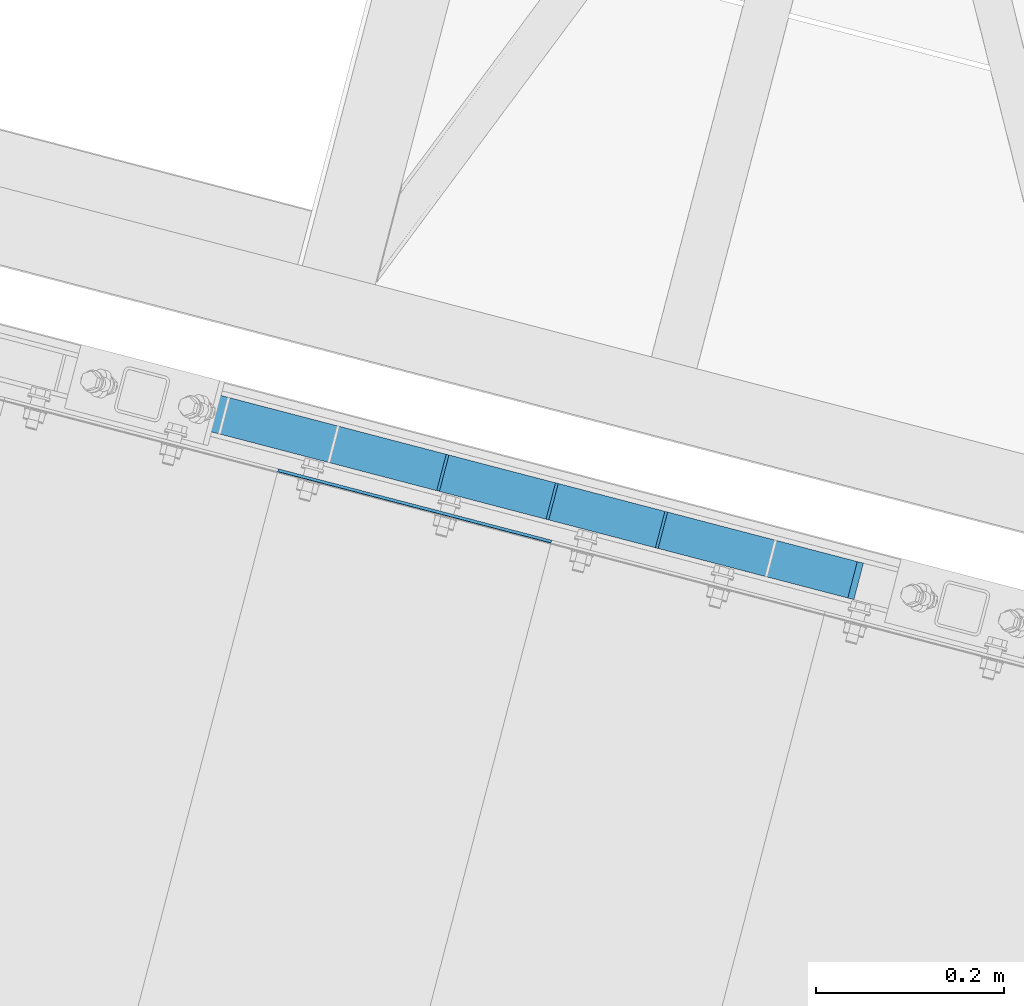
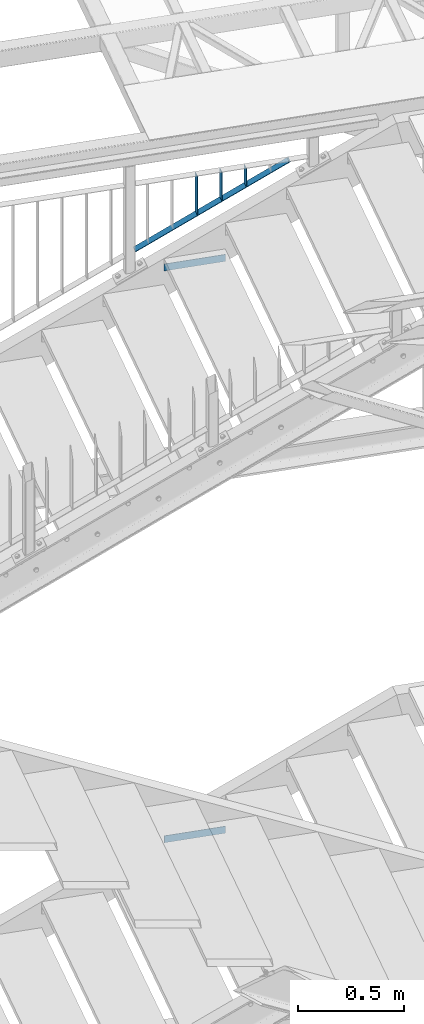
# One storey, part 82 of 169: 6 discrete accessories, 3 elements without a shape of their own.
"""IFC2X3 building model written with IfcOpenShell, lengths in millimetres."""

from ifc_helpers import new_model, si_unit, frame, origin_with_axes, origin_2d_with_axis, place, context, subcontext, project, spatial, polyline, rectangle, outline, extrude, boolean, clip, halfspace, material, type_object, element, aggregate, save


model = new_model("IFC2X3")

# Units and contexts
model_context = context("Model", 3, precision=1e-05, world=origin_with_axes())
body_context = subcontext(model_context, "Body", "Model", "MODEL_VIEW")
ifc_project = project(units=[si_unit("LENGTHUNIT", "METRE", prefix="MILLI"), si_unit("AREAUNIT", "SQUARE_METRE"), si_unit("VOLUMEUNIT", "CUBIC_METRE"), si_unit("MASSUNIT", "GRAM", prefix="KILO"), si_unit("TIMEUNIT", "SECOND"), si_unit("PLANEANGLEUNIT", "RADIAN"), si_unit("SOLIDANGLEUNIT", "STERADIAN"), si_unit("THERMODYNAMICTEMPERATUREUNIT", "DEGREE_CELSIUS"), si_unit("LUMINOUSINTENSITYUNIT", "LUMEN")], contexts=[model_context])

# Site, building, storey
site_placement = place(None, origin_with_axes())
site = spatial("IfcSite", under=ifc_project, at=site_placement, Name="Undefined", CompositionType="ELEMENT")
building_placement = place(site_placement, origin_with_axes())
building = spatial("IfcBuilding", under=site, at=building_placement, Name="Undefined", CompositionType="ELEMENT")
storey_placement = place(building_placement, origin_with_axes())
storey = spatial("IfcBuildingStorey", under=building, at=storey_placement, Name="Undefined", CompositionType="ELEMENT", Elevation=0.0)

# Assembly, discrete accessories
assembly_1_placement = place(storey_placement, origin_with_axes())
assembly_1 = element("IfcElementAssembly", 1, at=assembly_1_placement, inside=storey, Name="Steel Assembly", AssemblyPlace="NOTDEFINED", PredefinedType="RIGID_FRAME")
ifc_material_1 = material(Name="STEEL/S235")
discrete_accessory_type_1 = type_object("IfcDiscreteAccessoryType", Name="PORĘCZ")
discrete_accessory_1_placement = place(assembly_1_placement, frame((-25359.2721023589, 8229.94731419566, 13986.9945116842), z_axis=(-0.967563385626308, 0.252628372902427, -1.72000000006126e-07), x_axis=(-3.45692487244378e-05, -0.000132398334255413, -0.999999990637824)))
discrete_accessory_1 = element("IfcDiscreteAccessory", 2, at=discrete_accessory_1_placement, type_object=discrete_accessory_type_1, material=ifc_material_1, Name="PORĘCZ", ObjectType="BL40*3", context=body_context, shape_type="Clipping", body=[
    clip(clip(extrude(outline(polyline([(353.32294900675, 19.9999999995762), (353.322948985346, -20.0000000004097), (128.500000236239, -20.0000000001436), (128.500000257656, 19.9999999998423), (353.32294900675, 19.9999999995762)])), frame((1.81898940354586e-12, -1.77635442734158e-15, -1.50000000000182), z_axis=(0.0, 0.0, 1.0), x_axis=(1.0, 0.0, 0.0)), (0.0, 0.0, 1.0), 3.0), halfspace(frame((128.500000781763, 1000.00000000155, -1.38315954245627e-08), z_axis=(1.0, 0.0, 0.0), x_axis=(-2.54700353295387e-10, 0.0, -1.0)), True)), halfspace(frame((353.658359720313, 1000.00000000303, 0.670820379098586), z_axis=(-0.89442719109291, -3.87067713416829e-10, 0.44721359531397), x_axis=(0.44721359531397, 3.3177479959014e-10, 0.89442719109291)), True)),
])
discrete_accessory_2_placement = place(assembly_1_placement, frame((-25243.1658788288, 8199.6266135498, 13946.9945119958), z_axis=(-0.967563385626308, 0.252628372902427, -1.72000000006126e-07), x_axis=(-3.45692487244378e-05, -0.000132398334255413, -0.999999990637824)))
discrete_accessory_2 = element("IfcDiscreteAccessory", 3, at=discrete_accessory_2_placement, type_object=discrete_accessory_type_1, material=ifc_material_1, Name="PORĘCZ", ObjectType="BL40*3", context=body_context, shape_type="Clipping", body=[
    clip(clip(extrude(outline(polyline([(253.322948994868, 20.0000000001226), (253.32294893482, -19.9999999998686), (88.500000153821, -19.9999999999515), (88.5000002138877, 20.0000000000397), (253.322948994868, 20.0000000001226)])), frame((1.81898940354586e-12, -1.77635442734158e-15, -1.50000000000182), z_axis=(0.0, 0.0, 1.0), x_axis=(1.0, 0.0, 0.0)), (0.0, 0.0, 1.0), 3.0), halfspace(frame((88.5000016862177, 1000.0000000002, -1.38606992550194e-08), z_axis=(1.0, 0.0, 0.0), x_axis=(-2.54700353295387e-10, 0.0, -1.0)), True)), halfspace(frame((253.658360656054, 1000.00000000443, 0.670820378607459), z_axis=(-0.89442719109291, -3.87067713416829e-10, 0.44721359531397), x_axis=(0.44721359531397, 3.3177479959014e-10, 0.89442719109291)), True)),
])
discrete_accessory_3_placement = place(assembly_1_placement, frame((-25127.0596552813, 8169.3059129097, 13906.9945123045), z_axis=(-0.967563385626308, 0.252628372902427, -1.72000000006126e-07), x_axis=(-3.45692487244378e-05, -0.000132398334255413, -0.999999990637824)))
discrete_accessory_3 = element("IfcDiscreteAccessory", 4, at=discrete_accessory_3_placement, type_object=discrete_accessory_type_1, material=ifc_material_1, Name="PORĘCZ", ObjectType="BL40*3", context=body_context, shape_type="Clipping", body=[
    clip(clip(extrude(outline(polyline([(153.322949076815, 20.0000000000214), (153.322948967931, -19.9999999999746), (48.5000000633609, -19.9999999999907), (48.5000001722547, 20.0000000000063), (153.322949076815, 20.0000000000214)])), frame((1.81898940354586e-12, -1.77635442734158e-15, -1.50000000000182), z_axis=(0.0, 0.0, 1.0), x_axis=(1.0, 0.0, 0.0)), (0.0, 0.0, 1.0), 3.0), halfspace(frame((48.5000028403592, 999.999999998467, -1.5352270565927e-08), z_axis=(1.0, 0.0, 0.0), x_axis=(-2.54700353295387e-10, 0.0, -1.0)), True)), halfspace(frame((153.658361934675, 1000.00000000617, 0.670820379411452), z_axis=(-0.89442719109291, -3.87067713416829e-10, 0.44721359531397), x_axis=(0.44721359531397, 3.3177479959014e-10, 0.89442719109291)), True)),
])
discrete_accessory_4_placement = place(assembly_1_placement, frame((-25678.5859960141, 8313.24582991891, 13466.9945164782), z_axis=(-0.252628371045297, -0.967563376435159, 0.000136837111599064), x_axis=(0.8654304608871, -0.225898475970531, 0.447213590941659)))
discrete_accessory_4 = element("IfcDiscreteAccessory", 5, at=discrete_accessory_4_placement, type_object=discrete_accessory_type_1, material=ifc_material_1, Name="PORĘCZ", ObjectType="BL40*3", context=body_context, shape_type="CSG", body=[
    boolean("DIFFERENCE", boolean("DIFFERENCE", boolean("DIFFERENCE", boolean("DIFFERENCE", extrude(rectangle(XDim=3.0, YDim=40.0, at=origin_2d_with_axis()), frame((896.30909638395, 0.0, -6.86979927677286e-13), z_axis=(-1.0, -3.46944695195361e-18, -1.38777878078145e-17), x_axis=(1.73472347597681e-18, -1.0, 0.0)), (0.0, 0.0, 1.0), 889.25), extrude(rectangle(XDim=51.0, YDim=51.0, at=origin_2d_with_axis()), frame((62.609903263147, 125.219806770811, -1.03546508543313e-07), z_axis=(-0.44721359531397, -0.89442719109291, 6.42512531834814e-12), x_axis=(0.894427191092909, -0.447213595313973, -3.67723235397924e-10)), (0.0, 0.0, 1.0), 280.0)), extrude(rectangle(XDim=51.0, YDim=51.0, at=origin_2d_with_axis()), frame((1074.43066427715, 136.400146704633, -4.89881405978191e-07), z_axis=(-0.44721359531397, -0.89442719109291, 6.42512531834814e-12), x_axis=(0.894427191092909, -0.447213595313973, -3.67723235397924e-10)), (0.0, 0.0, 1.0), 280.0)), halfspace(frame((878.103894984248, -1.34164079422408, 1000.00000000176), z_axis=(-0.44721359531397, -0.89442719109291, 6.42512531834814e-12), x_axis=(0.894427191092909, -0.447213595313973, -3.67723235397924e-10)), True)), halfspace(frame((22.36067942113, -11.1803398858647, 1000.00000000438), z_axis=(0.894427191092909, -0.447213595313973, -3.67723235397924e-10), x_axis=(0.447213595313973, 0.894427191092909, -6.42523900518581e-12)), True)),
])
aggregate(assembly_1, [discrete_accessory_1, discrete_accessory_2, discrete_accessory_3, discrete_accessory_4])

# Assembly, discrete accessory
assembly_2_placement = place(storey_placement, origin_with_axes())
assembly_2 = element("IfcElementAssembly", 6, at=assembly_2_placement, inside=storey, Name="Steel Assembly", AssemblyPlace="NOTDEFINED", PredefinedType="RIGID_FRAME")
ifc_material_2 = material(Name="STEEL/S235JR")
discrete_accessory_type_2 = type_object("IfcDiscreteAccessoryType", Name="ANGLE")
discrete_accessory_5_placement = place(assembly_2_placement, frame((-25534.3074294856, 8232.67858531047, 13380.0957858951), z_axis=(-0.252562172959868, -0.967580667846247, 0.0), x_axis=(0.967580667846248, -0.252562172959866, 0.0)))
discrete_accessory_5 = element("IfcDiscreteAccessory", 7, at=discrete_accessory_5_placement, type_object=discrete_accessory_type_2, material=ifc_material_2, Name="ANGLE", ObjectType="3*40", context=body_context, shape_type="SweptSolid", body=[
    extrude(rectangle(XDim=40.0, YDim=3.0, at=origin_2d_with_axis()), frame((300.000000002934, 1.81898940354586e-12, -1.81898940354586e-12), z_axis=(-1.0, -3.46944695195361e-18, -1.38777878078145e-17), x_axis=(1.73472347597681e-18, -1.0, 0.0)), (0.0, 0.0, 1.0), 300.0),
])
aggregate(assembly_2, [discrete_accessory_5])

assembly_3_placement = place(storey_placement, origin_with_axes())
assembly_3 = element("IfcElementAssembly", 8, at=assembly_3_placement, inside=storey, Name="Steel Assembly", AssemblyPlace="NOTDEFINED", PredefinedType="RIGID_FRAME")
discrete_accessory_6_placement = place(assembly_3_placement, frame((-25534.4215068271, 8232.24167034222, 10080.0958168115), z_axis=(-0.252562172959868, -0.967580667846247, 0.0), x_axis=(0.967580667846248, -0.252562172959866, 0.0)))
discrete_accessory_6 = element("IfcDiscreteAccessory", 9, at=discrete_accessory_6_placement, type_object=discrete_accessory_type_2, material=ifc_material_2, Name="ANGLE", ObjectType="3*40", context=body_context, shape_type="SweptSolid", body=[
    extrude(rectangle(XDim=40.0, YDim=3.0, at=origin_2d_with_axis()), frame((300.000000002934, 1.81898940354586e-12, -1.81898940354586e-12), z_axis=(-1.0, -3.46944695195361e-18, -1.38777878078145e-17), x_axis=(1.73472347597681e-18, -1.0, 0.0)), (0.0, 0.0, 1.0), 300.0),
])
aggregate(assembly_3, [discrete_accessory_6])

save(model, "model.ifc")
